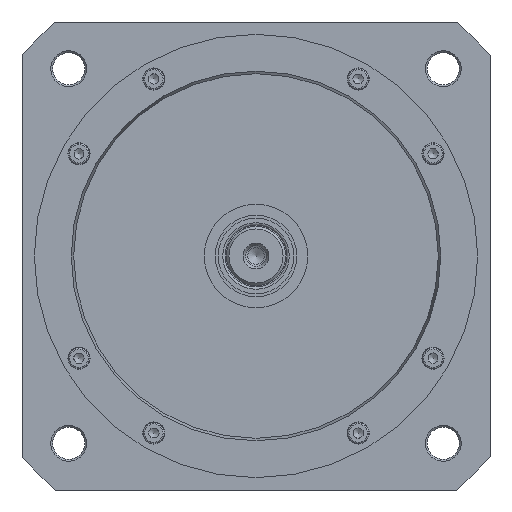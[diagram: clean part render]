
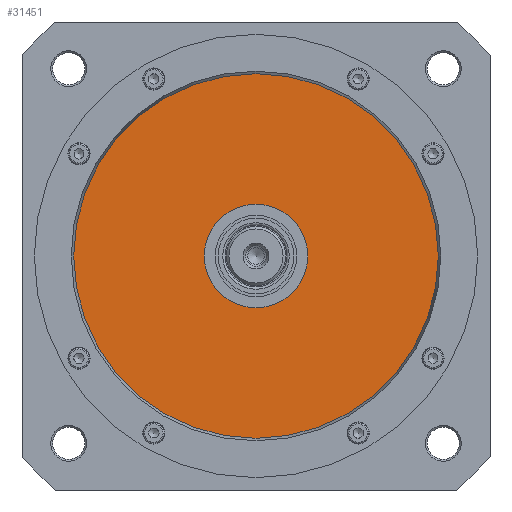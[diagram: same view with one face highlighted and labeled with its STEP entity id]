
A CAD part, left-side view. The second image highlights one B-rep face of the part: STEP entity #31451.
In plain terms, the highlighted planar face has unit normal (-1, 0, 0).
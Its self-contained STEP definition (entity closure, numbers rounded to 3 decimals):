
#1246=FACE_BOUND('',#9959,.T.);
#7856=FACE_OUTER_BOUND('',#9958,.T.);
#9958=EDGE_LOOP('',(#22022));
#9959=EDGE_LOOP('',(#22023));
#12747=CIRCLE('',#33771,74.);
#12748=CIRCLE('',#33773,21.);
#14847=VERTEX_POINT('',#47854);
#14848=VERTEX_POINT('',#47857);
#17720=EDGE_CURVE('',#14847,#14847,#12747,.T.);
#17721=EDGE_CURVE('',#14848,#14848,#12748,.T.);
#22022=ORIENTED_EDGE('',*,*,#17720,.F.);
#22023=ORIENTED_EDGE('',*,*,#17721,.T.);
#30779=PLANE('',#33772);
#31451=ADVANCED_FACE('',(#7856,#1246),#30779,.T.);
#33771=AXIS2_PLACEMENT_3D('',#47855,#38042,#38043);
#33772=AXIS2_PLACEMENT_3D('',#47856,#38044,#38045);
#33773=AXIS2_PLACEMENT_3D('',#47858,#38046,#38047);
#38042=DIRECTION('center_axis',(1.,0.,0.));
#38043=DIRECTION('ref_axis',(0.,1.,0.));
#38044=DIRECTION('center_axis',(-1.,0.,0.));
#38045=DIRECTION('ref_axis',(0.,-1.,0.));
#38046=DIRECTION('center_axis',(1.,0.,0.));
#38047=DIRECTION('ref_axis',(0.,1.,0.));
#47854=CARTESIAN_POINT('',(-56.2,0.,74.));
#47855=CARTESIAN_POINT('Origin',(-56.2,0.,0.));
#47856=CARTESIAN_POINT('Origin',(-56.2,0.,74.));
#47857=CARTESIAN_POINT('',(-56.2,0.,21.));
#47858=CARTESIAN_POINT('Origin',(-56.2,0.,0.));
